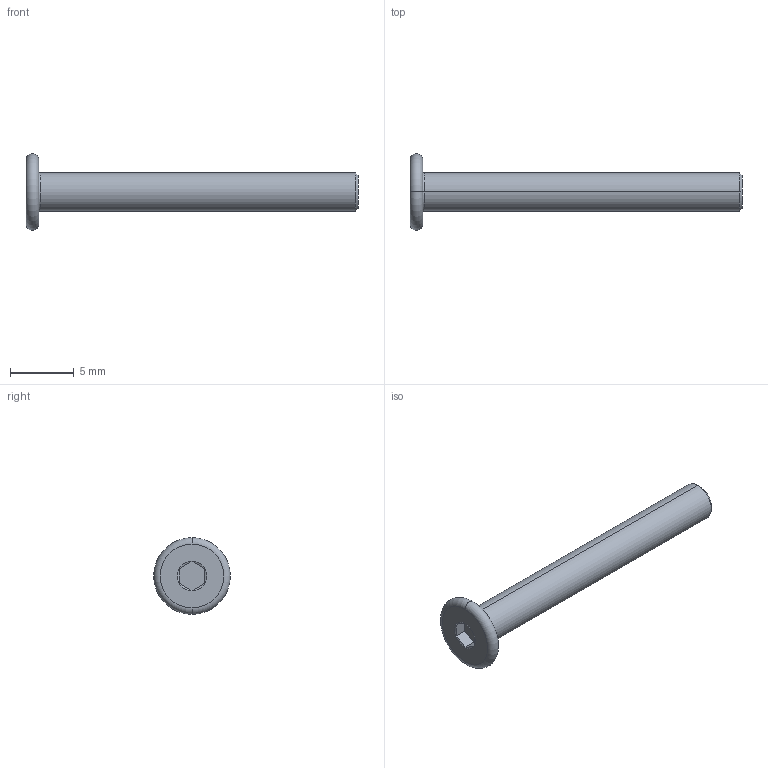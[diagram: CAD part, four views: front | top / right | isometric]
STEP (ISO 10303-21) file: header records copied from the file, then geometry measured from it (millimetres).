
FILE_DESCRIPTION (( 'STEP AP203' ), '1' );
FILE_NAME ('LGD-304M-M3x25.STEP', '2026-08-13T09:39:50', ( '' ), ( '' ), 'SwSTEP 2.0', 'SolidWorks 2020', '' );
FILE_SCHEMA (( 'CONFIG_CONTROL_DESIGN' ));
Length unit declared in the file: millimetre
Products named in the file (1): LGD-304M-M3x25
Bounding box: 26 x 6 x 6 mm (x, y, z)
Volume: 199.4 mm3; surface area: 307.8 mm2
Topology: 1 solids, 1 shells, 24 faces, 44 edges, 24 vertices
Faces by surface type: plane 10, cone 8, torus 4, cylinder 2
Entity records: 677 total; most frequent: CARTESIAN_POINT 123, DIRECTION 110, ORIENTED_EDGE 88, AXIS2_PLACEMENT_3D 47, EDGE_CURVE 44, EDGE_LOOP 26, VERTEX_POINT 24, ADVANCED_FACE 24
